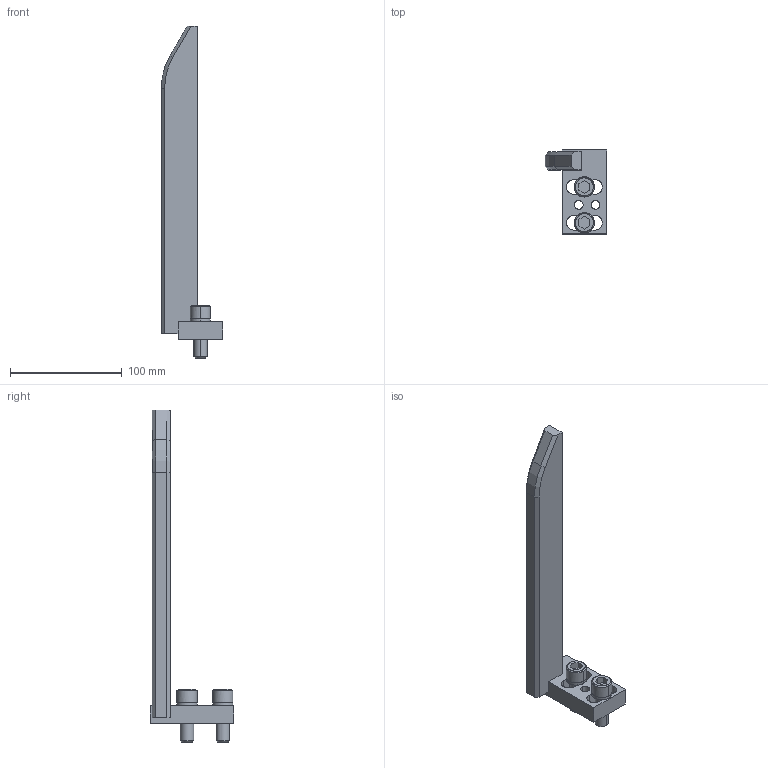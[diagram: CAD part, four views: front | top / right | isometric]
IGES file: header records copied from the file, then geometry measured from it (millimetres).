
Global section: file name: E:\UnigraphicsGraphicData\MISUMI_PRESS-PARTS\IGES\3d_ngnbr-280-40-m12_01558_r00.igs; native system: NX V5.0; preprocessor: UGS NX IGES V5.0; author: MISUMI; date: 20110105.162100; units: millimetre
Bounding box: 55 x 75 x 296.5 mm (x, y, z)
Surface area: 43552.3 mm2 (no closed solid volume)
Topology: 0 solids, 0 shells, 104 faces, 664 edges, 664 vertices
Faces by surface type: bspline 104
